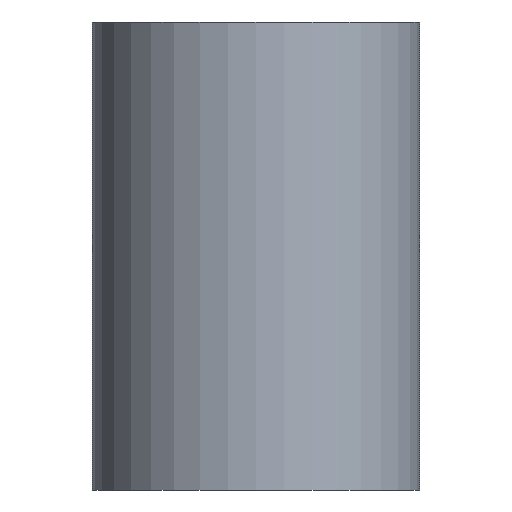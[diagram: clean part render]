
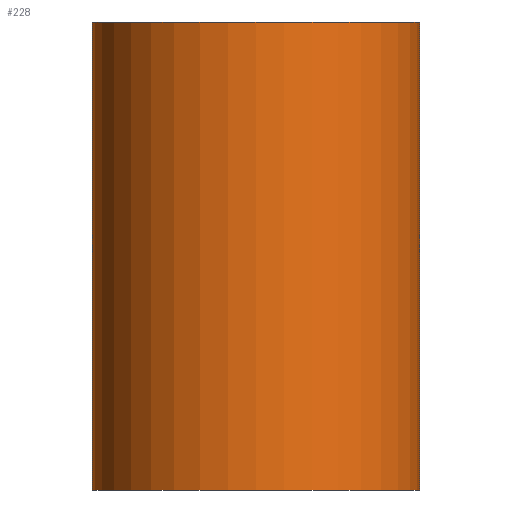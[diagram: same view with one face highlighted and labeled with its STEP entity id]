
A CAD part, left-side view. The second image highlights one B-rep face of the part: STEP entity #228.
In plain terms, the highlighted cylindrical face has radius 5 mm (diameter 10 mm), a partial arc.
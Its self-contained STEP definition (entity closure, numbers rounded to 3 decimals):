
#44 = PLANE('',#45);
#45 = AXIS2_PLACEMENT_3D('',#46,#47,#48);
#46 = CARTESIAN_POINT('',(-54.925,5.,0.));
#47 = DIRECTION('',(0.,1.,0.));
#48 = DIRECTION('',(1.,0.,0.));
#73 = PLANE('',#74);
#74 = AXIS2_PLACEMENT_3D('',#75,#76,#77);
#75 = CARTESIAN_POINT('',(0.,0.,14.3));
#76 = DIRECTION('',(0.,0.,1.));
#77 = DIRECTION('',(1.,0.,-0.));
#105 = PLANE('',#106);
#106 = AXIS2_PLACEMENT_3D('',#107,#108,#109);
#107 = CARTESIAN_POINT('',(0.,-5.,0.));
#108 = DIRECTION('',(0.,1.,0.));
#109 = DIRECTION('',(1.,0.,0.));
#132 = PLANE('',#133);
#133 = AXIS2_PLACEMENT_3D('',#134,#135,#136);
#134 = CARTESIAN_POINT('',(0.,0.,0.));
#135 = DIRECTION('',(0.,0.,1.));
#136 = DIRECTION('',(1.,0.,-0.));
#153 = VERTEX_POINT('',#154);
#154 = CARTESIAN_POINT('',(-54.925,-5.,14.3));
#175 = EDGE_CURVE('',#153,#176,#178,.T.);
#176 = VERTEX_POINT('',#177);
#177 = CARTESIAN_POINT('',(-54.925,5.,14.3));
#178 = SURFACE_CURVE('',#179,(#184,#195),.PCURVE_S1.);
#179 = CIRCLE('',#180,5.);
#180 = AXIS2_PLACEMENT_3D('',#181,#182,#183);
#181 = CARTESIAN_POINT('',(-54.925,0.,14.3));
#182 = DIRECTION('',(0.,0.,-1.));
#183 = DIRECTION('',(1.,0.,0.));
#184 = PCURVE('',#73,#185);
#185 = DEFINITIONAL_REPRESENTATION('',(#186),#194);
#186 = ( BOUNDED_CURVE() B_SPLINE_CURVE(2,(#187,#188,#189,#190,#191,#192
,#193),.UNSPECIFIED.,.T.,.F.) B_SPLINE_CURVE_WITH_KNOTS((1,2,2,2,2,1),(
    -2.094,0.,2.094,4.189,6.283,
8.378),.UNSPECIFIED.) CURVE() GEOMETRIC_REPRESENTATION_ITEM() 
RATIONAL_B_SPLINE_CURVE((1.,0.5,1.,0.5,1.,0.5,1.)) REPRESENTATION_ITEM(
  '') );
#187 = CARTESIAN_POINT('',(-49.925,0.));
#188 = CARTESIAN_POINT('',(-49.925,-8.66));
#189 = CARTESIAN_POINT('',(-57.425,-4.33));
#190 = CARTESIAN_POINT('',(-64.925,0.));
#191 = CARTESIAN_POINT('',(-57.425,4.33));
#192 = CARTESIAN_POINT('',(-49.925,8.66));
#193 = CARTESIAN_POINT('',(-49.925,0.));
#194 = ( GEOMETRIC_REPRESENTATION_CONTEXT(2) 
PARAMETRIC_REPRESENTATION_CONTEXT() REPRESENTATION_CONTEXT('2D SPACE',''
  ) );
#195 = PCURVE('',#196,#201);
#196 = CYLINDRICAL_SURFACE('',#197,5.);
#197 = AXIS2_PLACEMENT_3D('',#198,#199,#200);
#198 = CARTESIAN_POINT('',(-54.925,0.,0.));
#199 = DIRECTION('',(0.,0.,-1.));
#200 = DIRECTION('',(1.,0.,0.));
#201 = DEFINITIONAL_REPRESENTATION('',(#202),#206);
#202 = LINE('',#203,#204);
#203 = CARTESIAN_POINT('',(0.,-14.3));
#204 = VECTOR('',#205,1.);
#205 = DIRECTION('',(1.,0.));
#206 = ( GEOMETRIC_REPRESENTATION_CONTEXT(2) 
PARAMETRIC_REPRESENTATION_CONTEXT() REPRESENTATION_CONTEXT('2D SPACE',''
  ) );
#228 = ADVANCED_FACE('',(#229),#196,.T.);
#229 = FACE_BOUND('',#230,.T.);
#230 = EDGE_LOOP('',(#231,#254,#255,#278));
#231 = ORIENTED_EDGE('',*,*,#232,.T.);
#232 = EDGE_CURVE('',#233,#153,#235,.T.);
#233 = VERTEX_POINT('',#234);
#234 = CARTESIAN_POINT('',(-54.925,-5.,0.));
#235 = SURFACE_CURVE('',#236,(#240,#247),.PCURVE_S1.);
#236 = LINE('',#237,#238);
#237 = CARTESIAN_POINT('',(-54.925,-5.,0.));
#238 = VECTOR('',#239,1.);
#239 = DIRECTION('',(0.,0.,1.));
#240 = PCURVE('',#196,#241);
#241 = DEFINITIONAL_REPRESENTATION('',(#242),#246);
#242 = LINE('',#243,#244);
#243 = CARTESIAN_POINT('',(1.571,0.));
#244 = VECTOR('',#245,1.);
#245 = DIRECTION('',(0.,-1.));
#246 = ( GEOMETRIC_REPRESENTATION_CONTEXT(2) 
PARAMETRIC_REPRESENTATION_CONTEXT() REPRESENTATION_CONTEXT('2D SPACE',''
  ) );
#247 = PCURVE('',#105,#248);
#248 = DEFINITIONAL_REPRESENTATION('',(#249),#253);
#249 = LINE('',#250,#251);
#250 = CARTESIAN_POINT('',(-54.925,0.));
#251 = VECTOR('',#252,1.);
#252 = DIRECTION('',(0.,-1.));
#253 = ( GEOMETRIC_REPRESENTATION_CONTEXT(2) 
PARAMETRIC_REPRESENTATION_CONTEXT() REPRESENTATION_CONTEXT('2D SPACE',''
  ) );
#254 = ORIENTED_EDGE('',*,*,#175,.T.);
#255 = ORIENTED_EDGE('',*,*,#256,.F.);
#256 = EDGE_CURVE('',#257,#176,#259,.T.);
#257 = VERTEX_POINT('',#258);
#258 = CARTESIAN_POINT('',(-54.925,5.,0.));
#259 = SURFACE_CURVE('',#260,(#264,#271),.PCURVE_S1.);
#260 = LINE('',#261,#262);
#261 = CARTESIAN_POINT('',(-54.925,5.,0.));
#262 = VECTOR('',#263,1.);
#263 = DIRECTION('',(0.,0.,1.));
#264 = PCURVE('',#196,#265);
#265 = DEFINITIONAL_REPRESENTATION('',(#266),#270);
#266 = LINE('',#267,#268);
#267 = CARTESIAN_POINT('',(4.712,0.));
#268 = VECTOR('',#269,1.);
#269 = DIRECTION('',(0.,-1.));
#270 = ( GEOMETRIC_REPRESENTATION_CONTEXT(2) 
PARAMETRIC_REPRESENTATION_CONTEXT() REPRESENTATION_CONTEXT('2D SPACE',''
  ) );
#271 = PCURVE('',#44,#272);
#272 = DEFINITIONAL_REPRESENTATION('',(#273),#277);
#273 = LINE('',#274,#275);
#274 = CARTESIAN_POINT('',(0.,0.));
#275 = VECTOR('',#276,1.);
#276 = DIRECTION('',(0.,-1.));
#277 = ( GEOMETRIC_REPRESENTATION_CONTEXT(2) 
PARAMETRIC_REPRESENTATION_CONTEXT() REPRESENTATION_CONTEXT('2D SPACE',''
  ) );
#278 = ORIENTED_EDGE('',*,*,#279,.F.);
#279 = EDGE_CURVE('',#233,#257,#280,.T.);
#280 = SURFACE_CURVE('',#281,(#286,#293),.PCURVE_S1.);
#281 = CIRCLE('',#282,5.);
#282 = AXIS2_PLACEMENT_3D('',#283,#284,#285);
#283 = CARTESIAN_POINT('',(-54.925,0.,0.));
#284 = DIRECTION('',(0.,0.,-1.));
#285 = DIRECTION('',(1.,0.,0.));
#286 = PCURVE('',#196,#287);
#287 = DEFINITIONAL_REPRESENTATION('',(#288),#292);
#288 = LINE('',#289,#290);
#289 = CARTESIAN_POINT('',(0.,0.));
#290 = VECTOR('',#291,1.);
#291 = DIRECTION('',(1.,0.));
#292 = ( GEOMETRIC_REPRESENTATION_CONTEXT(2) 
PARAMETRIC_REPRESENTATION_CONTEXT() REPRESENTATION_CONTEXT('2D SPACE',''
  ) );
#293 = PCURVE('',#132,#294);
#294 = DEFINITIONAL_REPRESENTATION('',(#295),#303);
#295 = ( BOUNDED_CURVE() B_SPLINE_CURVE(2,(#296,#297,#298,#299,#300,#301
,#302),.UNSPECIFIED.,.T.,.F.) B_SPLINE_CURVE_WITH_KNOTS((1,2,2,2,2,1),(
    -2.094,0.,2.094,4.189,6.283,
8.378),.UNSPECIFIED.) CURVE() GEOMETRIC_REPRESENTATION_ITEM() 
RATIONAL_B_SPLINE_CURVE((1.,0.5,1.,0.5,1.,0.5,1.)) REPRESENTATION_ITEM(
  '') );
#296 = CARTESIAN_POINT('',(-49.925,0.));
#297 = CARTESIAN_POINT('',(-49.925,-8.66));
#298 = CARTESIAN_POINT('',(-57.425,-4.33));
#299 = CARTESIAN_POINT('',(-64.925,0.));
#300 = CARTESIAN_POINT('',(-57.425,4.33));
#301 = CARTESIAN_POINT('',(-49.925,8.66));
#302 = CARTESIAN_POINT('',(-49.925,0.));
#303 = ( GEOMETRIC_REPRESENTATION_CONTEXT(2) 
PARAMETRIC_REPRESENTATION_CONTEXT() REPRESENTATION_CONTEXT('2D SPACE',''
  ) );
